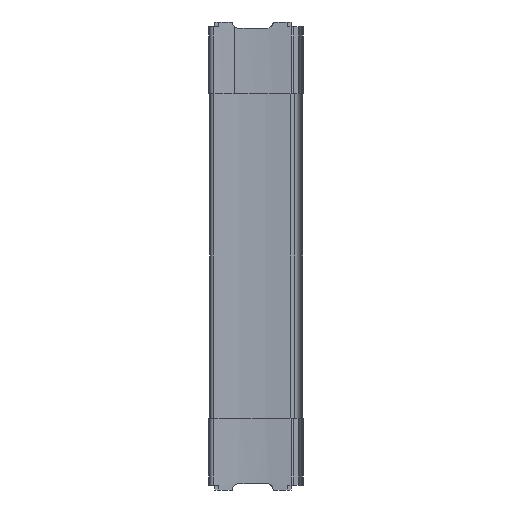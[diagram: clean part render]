
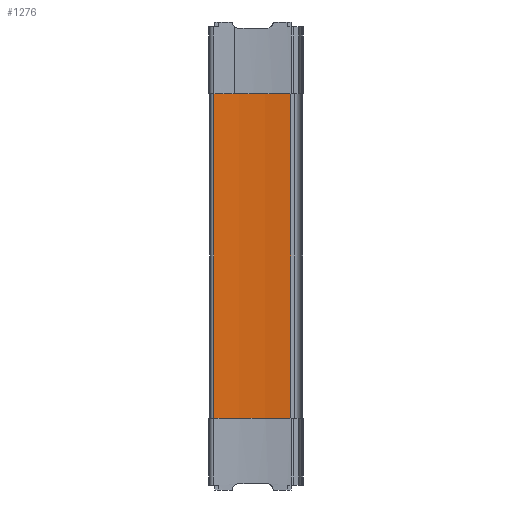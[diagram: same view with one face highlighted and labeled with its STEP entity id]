
A CAD part, left-side view. The second image highlights one B-rep face of the part: STEP entity #1276.
In plain terms, the highlighted cylindrical face has radius 250 mm (diameter 500 mm), a partial arc.
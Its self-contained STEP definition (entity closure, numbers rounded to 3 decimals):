
#308 = CARTESIAN_POINT ( 'NONE',  ( -5.747, 63.571, -116. ) ) ;
#598 = CIRCLE ( 'NONE', #609, 250. ) ;
#603 = CIRCLE ( 'NONE', #606, 250. ) ;
#606 = AXIS2_PLACEMENT_3D ( 'NONE', #4145, #4146, #4147 ) ;
#609 = AXIS2_PLACEMENT_3D ( 'NONE', #4151, #4152, #4153 ) ;
#620 = VECTOR ( 'NONE', #4225, 1000. ) ;
#793 = ORIENTED_EDGE ( 'NONE', *, *, #2178, .F. ) ;
#802 = ORIENTED_EDGE ( 'NONE', *, *, #2801, .F. ) ;
#853 = AXIS2_PLACEMENT_3D ( 'NONE', #3305, #3308, #3314 ) ;
#856 = VECTOR ( 'NONE', #3463, 1000. ) ;
#912 = VERTEX_POINT ( 'NONE', #3606 ) ;
#1276 = ADVANCED_FACE ( 'NONE', ( #3312 ), #3311, .F. ) ;
#1310 = EDGE_CURVE ( 'NONE', #912, #1795, #3454, .T. ) ;
#1795 = VERTEX_POINT ( 'NONE', #308 ) ;
#1947 = CARTESIAN_POINT ( 'NONE',  ( -8.643, 8.331, -116. ) ) ;
#1950 = CARTESIAN_POINT ( 'NONE',  ( -8.643, 8.331, 116. ) ) ;
#2176 = EDGE_CURVE ( 'NONE', #912, #3148, #603, .T. ) ;
#2178 = EDGE_CURVE ( 'NONE', #3145, #1795, #598, .T. ) ;
#2478 = ORIENTED_EDGE ( 'NONE', *, *, #1310, .T. ) ;
#2493 = ORIENTED_EDGE ( 'NONE', *, *, #2176, .F. ) ;
#2801 = EDGE_CURVE ( 'NONE', #3148, #3145, #4223, .T. ) ;
#3145 = VERTEX_POINT ( 'NONE', #1947 ) ;
#3148 = VERTEX_POINT ( 'NONE', #1950 ) ;
#3305 = CARTESIAN_POINT ( 'NONE',  ( -255.319, 48.963, 122. ) ) ;
#3308 = DIRECTION ( 'NONE',  ( 0., 0., -1. ) ) ;
#3311 = CYLINDRICAL_SURFACE ( 'NONE', #853, 250. ) ;
#3312 = FACE_OUTER_BOUND ( 'NONE', #3931, .T. ) ;
#3314 = DIRECTION ( 'NONE',  ( -1., 0., 0. ) ) ;
#3454 = LINE ( 'NONE', #3461, #856 ) ;
#3461 = CARTESIAN_POINT ( 'NONE',  ( -5.747, 63.571, 122. ) ) ;
#3463 = DIRECTION ( 'NONE',  ( 0., 0., -1. ) ) ;
#3606 = CARTESIAN_POINT ( 'NONE',  ( -5.747, 63.571, 116. ) ) ;
#3931 = EDGE_LOOP ( 'NONE', ( #793, #802, #2493, #2478 ) ) ;
#4145 = CARTESIAN_POINT ( 'NONE',  ( -255.319, 48.963, 116. ) ) ;
#4146 = DIRECTION ( 'NONE',  ( 0., 0., -1. ) ) ;
#4147 = DIRECTION ( 'NONE',  ( 1., 0., 0. ) ) ;
#4151 = CARTESIAN_POINT ( 'NONE',  ( -255.319, 48.963, -116. ) ) ;
#4152 = DIRECTION ( 'NONE',  ( 0., 0., 1. ) ) ;
#4153 = DIRECTION ( 'NONE',  ( -1., 0., 0. ) ) ;
#4223 = LINE ( 'NONE', #4224, #620 ) ;
#4224 = CARTESIAN_POINT ( 'NONE',  ( -8.643, 8.331, 122. ) ) ;
#4225 = DIRECTION ( 'NONE',  ( 0., 0., -1. ) ) ;
